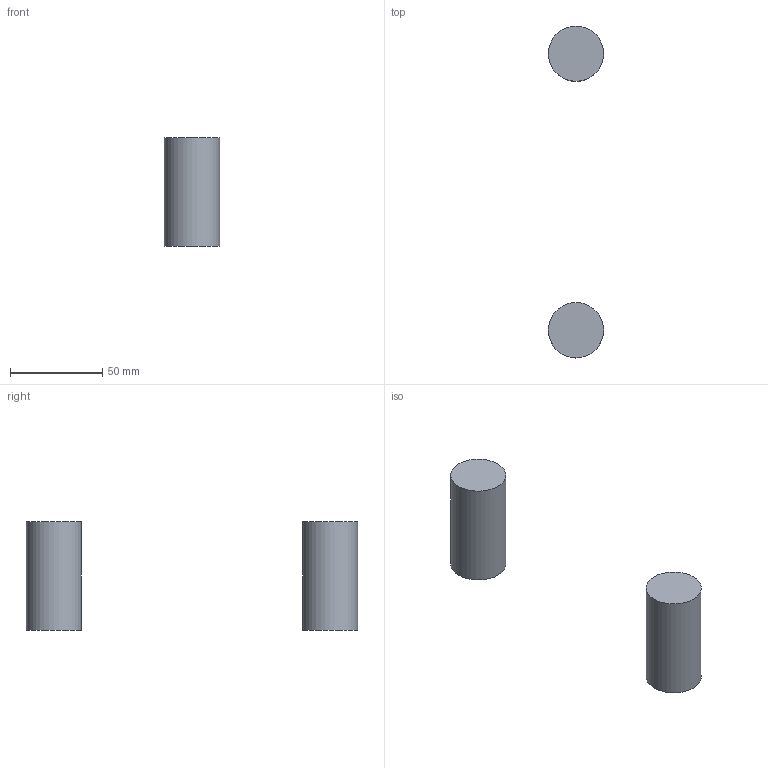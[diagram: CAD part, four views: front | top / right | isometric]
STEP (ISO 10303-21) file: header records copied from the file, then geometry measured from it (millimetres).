
FILE_DESCRIPTION(('Open CASCADE Model'),'2;1');
FILE_NAME('Open CASCADE Shape Model','2026-11-05T14:32:42',('Author'),( 'Open CASCADE'),'Open CASCADE STEP processor 7.9','Open CASCADE 7.9' ,'Unknown');
FILE_SCHEMA(('AUTOMOTIVE_DESIGN { 1 0 10303 214 1 1 1 1 }'));
Length unit declared in the file: millimetre
Products named in the file (3): C05_VENT_SERVICE_LOCAL; W1_VENT_TOOL_TOP_APPROACH; W2_VENT_TOOL_TOP_APPROACH
Assembly tree (2 placements, depth 2):
  C05_VENT_SERVICE_LOCAL
    W1_VENT_TOOL_TOP_APPROACH
    W2_VENT_TOOL_TOP_APPROACH
Bounding box: 30 x 180 x 59 mm (x, y, z)
Volume: 83409.3 mm3; surface area: 13948.7 mm2
Topology: 2 solids, 2 shells, 6 faces, 6 edges, 4 vertices
Faces by surface type: plane 4, cylinder 2
Full cylindrical faces by diameter (mm): 30 x2
Entity records: 253 total; most frequent: DIRECTION 40, CARTESIAN_POINT 31, AXIS2_PLACEMENT_3D 13, ORIENTED_EDGE 12, PCURVE 12, DEFINITIONAL_REPRESENTATION 12, LINE 10, VECTOR 10
